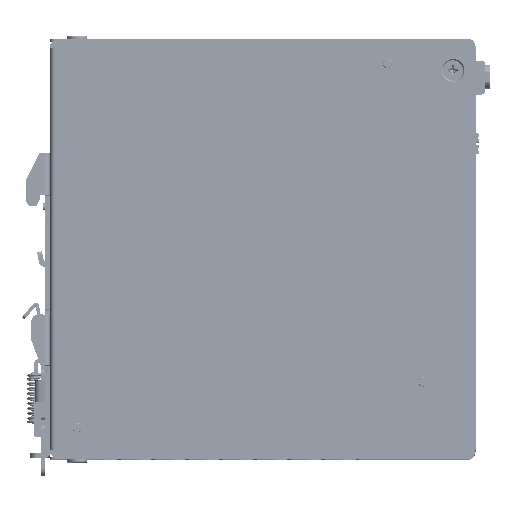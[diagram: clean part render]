
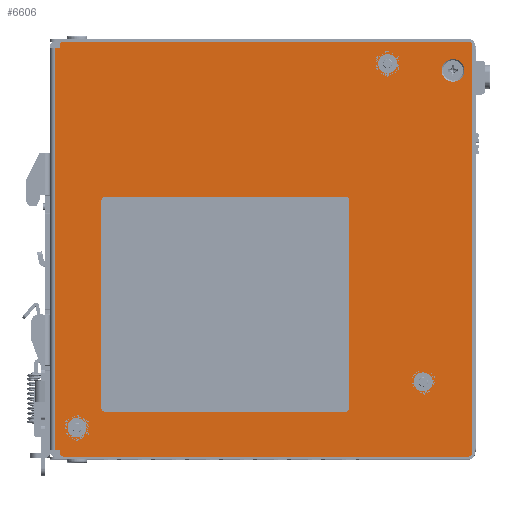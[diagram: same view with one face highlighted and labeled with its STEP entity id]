
A CAD part, top view. The second image highlights one B-rep face of the part: STEP entity #6606.
In plain terms, the highlighted planar face has unit normal (0, 0, 1).
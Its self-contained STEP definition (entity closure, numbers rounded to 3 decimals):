
#1284=DIRECTION('',(0.,-1.,0.));
#1285=VECTOR('',#1284,118.4);
#1286=CARTESIAN_POINT('',(1.5,59.2,0.));
#1287=LINE('',#1286,#1285);
#1306=DIRECTION('',(-1.,0.,0.));
#1307=VECTOR('',#1306,1.5);
#1308=CARTESIAN_POINT('',(3.,59.2,0.));
#1309=LINE('',#1308,#1307);
#1320=CARTESIAN_POINT('',(123.5,-60.1,0.));
#1321=DIRECTION('',(0.,0.,-1.));
#1322=DIRECTION('',(1.,0.,0.));
#1323=AXIS2_PLACEMENT_3D('',#1320,#1321,#1322);
#1328=CARTESIAN_POINT('',(4.,-60.2,0.));
#1329=DIRECTION('',(0.,0.,-1.));
#1330=DIRECTION('',(0.,-1.,0.));
#1331=AXIS2_PLACEMENT_3D('',#1328,#1329,#1330);
#1336=CARTESIAN_POINT('',(2.7,-59.5,0.));
#1337=DIRECTION('',(0.,0.,1.));
#1338=DIRECTION('',(1.,0.,0.));
#1339=AXIS2_PLACEMENT_3D('',#1336,#1337,#1338);
#1344=DIRECTION('',(-1.,0.,0.));
#1345=VECTOR('',#1344,1.2);
#1346=CARTESIAN_POINT('',(2.7,-59.2,0.));
#1347=LINE('',#1346,#1345);
#1351=DIRECTION('',(0.,1.,0.));
#1352=VECTOR('',#1351,1.);
#1353=CARTESIAN_POINT('',(3.,59.2,0.));
#1354=LINE('',#1353,#1352);
#1358=CARTESIAN_POINT('',(4.,60.2,0.));
#1359=DIRECTION('',(0.,0.,-1.));
#1360=DIRECTION('',(-1.,0.,0.));
#1361=AXIS2_PLACEMENT_3D('',#1358,#1359,#1360);
#1366=CARTESIAN_POINT('',(123.5,60.1,0.));
#1367=DIRECTION('',(0.,0.,-1.));
#1368=DIRECTION('',(0.,1.,0.));
#1369=AXIS2_PLACEMENT_3D('',#1366,#1367,#1368);
#1374=CARTESIAN_POINT('',(118.9,52.7,0.));
#1375=DIRECTION('',(0.,0.,1.));
#1376=DIRECTION('',(-1.,0.,0.));
#1377=AXIS2_PLACEMENT_3D('',#1374,#1375,#1376);
#1382=CARTESIAN_POINT('',(118.9,52.7,0.));
#1383=DIRECTION('',(0.,0.,1.));
#1384=DIRECTION('',(1.,0.,0.));
#1385=AXIS2_PLACEMENT_3D('',#1382,#1383,#1384);
#1390=CARTESIAN_POINT('',(8.,-52.7,0.));
#1391=DIRECTION('',(0.,0.,1.));
#1392=DIRECTION('',(1.,0.,0.));
#1393=AXIS2_PLACEMENT_3D('',#1390,#1391,#1392);
#1398=CARTESIAN_POINT('',(8.,-52.7,0.));
#1399=DIRECTION('',(0.,0.,1.));
#1400=DIRECTION('',(-1.,0.,0.));
#1401=AXIS2_PLACEMENT_3D('',#1398,#1399,#1400);
#1406=CARTESIAN_POINT('',(99.6,54.7,0.));
#1407=DIRECTION('',(0.,0.,1.));
#1408=DIRECTION('',(1.,0.,0.));
#1409=AXIS2_PLACEMENT_3D('',#1406,#1407,#1408);
#1414=CARTESIAN_POINT('',(99.6,54.7,0.));
#1415=DIRECTION('',(0.,0.,1.));
#1416=DIRECTION('',(-1.,0.,0.));
#1417=AXIS2_PLACEMENT_3D('',#1414,#1415,#1416);
#1422=CARTESIAN_POINT('',(110.1,-39.2,0.));
#1423=DIRECTION('',(0.,0.,1.));
#1424=DIRECTION('',(1.,0.,0.));
#1425=AXIS2_PLACEMENT_3D('',#1422,#1423,#1424);
#1430=CARTESIAN_POINT('',(110.1,-39.2,0.));
#1431=DIRECTION('',(0.,0.,1.));
#1432=DIRECTION('',(-1.,0.,0.));
#1433=AXIS2_PLACEMENT_3D('',#1430,#1431,#1432);
#1605=DIRECTION('',(0.,1.,0.));
#1606=VECTOR('',#1605,21.7);
#1607=CARTESIAN_POINT('',(124.6,-60.1,0.));
#1608=LINE('',#1607,#1606);
#1619=DIRECTION('',(0.,1.,0.));
#1620=VECTOR('',#1619,98.5);
#1621=CARTESIAN_POINT('',(124.6,-38.4,0.));
#1622=LINE('',#1621,#1620);
#1640=DIRECTION('',(-1.,0.,0.));
#1641=VECTOR('',#1640,119.5);
#1642=CARTESIAN_POINT('',(123.5,61.2,0.));
#1643=LINE('',#1642,#1641);
#1696=DIRECTION('',(0.,-1.,0.));
#1697=VECTOR('',#1696,0.7);
#1698=CARTESIAN_POINT('',(3.,-59.5,0.));
#1699=LINE('',#1698,#1697);
#1717=DIRECTION('',(1.,0.,0.));
#1718=VECTOR('',#1717,119.5);
#1719=CARTESIAN_POINT('',(4.,-61.2,0.));
#1720=LINE('',#1719,#1718);
#1810=DIRECTION('',(0.,1.,0.));
#1811=VECTOR('',#1810,20.);
#1812=CARTESIAN_POINT('',(15.,-29.7,0.));
#1813=LINE('',#1812,#1811);
#1824=DIRECTION('',(1.,0.,0.));
#1825=VECTOR('',#1824,0.2);
#1826=CARTESIAN_POINT('',(15.,-9.7,0.));
#1827=LINE('',#1826,#1825);
#1838=DIRECTION('',(0.,-1.,0.));
#1839=VECTOR('',#1838,20.);
#1840=CARTESIAN_POINT('',(15.2,-9.7,0.));
#1841=LINE('',#1840,#1839);
#1852=DIRECTION('',(-1.,0.,0.));
#1853=VECTOR('',#1852,0.2);
#1854=CARTESIAN_POINT('',(15.2,-29.7,0.));
#1855=LINE('',#1854,#1853);
#1894=DIRECTION('',(0.,1.,0.));
#1895=VECTOR('',#1894,3.5);
#1896=CARTESIAN_POINT('',(15.,-48.2,0.));
#1897=LINE('',#1896,#1895);
#1908=DIRECTION('',(1.,0.,0.));
#1909=VECTOR('',#1908,0.2);
#1910=CARTESIAN_POINT('',(15.,-44.7,0.));
#1911=LINE('',#1910,#1909);
#1922=DIRECTION('',(0.,-1.,0.));
#1923=VECTOR('',#1922,3.3);
#1924=CARTESIAN_POINT('',(15.2,-44.7,0.));
#1925=LINE('',#1924,#1923);
#1936=DIRECTION('',(1.,0.,0.));
#1937=VECTOR('',#1936,3.3);
#1938=CARTESIAN_POINT('',(15.2,-48.,0.));
#1939=LINE('',#1938,#1937);
#1950=DIRECTION('',(0.,-1.,0.));
#1951=VECTOR('',#1950,0.2);
#1952=CARTESIAN_POINT('',(18.5,-48.,0.));
#1953=LINE('',#1952,#1951);
#1964=DIRECTION('',(-1.,0.,0.));
#1965=VECTOR('',#1964,3.5);
#1966=CARTESIAN_POINT('',(18.5,-48.2,0.));
#1967=LINE('',#1966,#1965);
#5215=CARTESIAN_POINT('',(1.5,-59.2,0.));
#5216=VERTEX_POINT('',#5215);
#5217=CARTESIAN_POINT('',(1.5,59.2,0.));
#5218=VERTEX_POINT('',#5217);
#5219=CARTESIAN_POINT('',(3.,59.2,0.));
#5220=VERTEX_POINT('',#5219);
#5223=CARTESIAN_POINT('',(124.6,-60.1,0.));
#5224=CARTESIAN_POINT('',(123.5,-61.2,0.));
#5225=VERTEX_POINT('',#5223);
#5226=VERTEX_POINT('',#5224);
#5227=CARTESIAN_POINT('',(4.,-61.2,0.));
#5228=VERTEX_POINT('',#5227);
#5229=CARTESIAN_POINT('',(3.,-60.2,0.));
#5230=VERTEX_POINT('',#5229);
#5231=CARTESIAN_POINT('',(3.,-59.5,0.));
#5232=VERTEX_POINT('',#5231);
#5233=CARTESIAN_POINT('',(2.7,-59.2,0.));
#5234=VERTEX_POINT('',#5233);
#5235=CARTESIAN_POINT('',(3.,60.2,0.));
#5236=VERTEX_POINT('',#5235);
#5237=CARTESIAN_POINT('',(4.,61.2,0.));
#5238=VERTEX_POINT('',#5237);
#5239=CARTESIAN_POINT('',(123.5,61.2,0.));
#5240=VERTEX_POINT('',#5239);
#5241=CARTESIAN_POINT('',(124.6,60.1,0.));
#5242=VERTEX_POINT('',#5241);
#5243=CARTESIAN_POINT('',(124.6,-38.4,0.));
#5244=VERTEX_POINT('',#5243);
#5245=CARTESIAN_POINT('',(115.55,52.7,0.));
#5246=CARTESIAN_POINT('',(122.25,52.7,0.));
#5247=VERTEX_POINT('',#5245);
#5248=VERTEX_POINT('',#5246);
#5249=CARTESIAN_POINT('',(10.8,-52.7,0.));
#5250=CARTESIAN_POINT('',(5.2,-52.7,0.));
#5251=VERTEX_POINT('',#5249);
#5252=VERTEX_POINT('',#5250);
#5253=CARTESIAN_POINT('',(102.4,54.7,0.));
#5254=CARTESIAN_POINT('',(96.8,54.7,0.));
#5255=VERTEX_POINT('',#5253);
#5256=VERTEX_POINT('',#5254);
#5257=CARTESIAN_POINT('',(15.,-29.7,0.));
#5258=CARTESIAN_POINT('',(15.,-9.7,0.));
#5259=VERTEX_POINT('',#5257);
#5260=VERTEX_POINT('',#5258);
#5261=CARTESIAN_POINT('',(15.2,-29.7,0.));
#5262=VERTEX_POINT('',#5261);
#5263=CARTESIAN_POINT('',(15.2,-9.7,0.));
#5264=VERTEX_POINT('',#5263);
#5265=CARTESIAN_POINT('',(15.,-48.2,0.));
#5266=CARTESIAN_POINT('',(15.,-44.7,0.));
#5267=VERTEX_POINT('',#5265);
#5268=VERTEX_POINT('',#5266);
#5269=CARTESIAN_POINT('',(18.5,-48.2,0.));
#5270=VERTEX_POINT('',#5269);
#5271=CARTESIAN_POINT('',(18.5,-48.,0.));
#5272=VERTEX_POINT('',#5271);
#5273=CARTESIAN_POINT('',(15.2,-48.,0.));
#5274=VERTEX_POINT('',#5273);
#5275=CARTESIAN_POINT('',(15.2,-44.7,0.));
#5276=VERTEX_POINT('',#5275);
#5277=CARTESIAN_POINT('',(112.9,-39.2,0.));
#5278=CARTESIAN_POINT('',(107.3,-39.2,0.));
#5279=VERTEX_POINT('',#5277);
#5280=VERTEX_POINT('',#5278);
#6525=CARTESIAN_POINT('',(0.,0.,0.));
#6526=DIRECTION('',(0.,0.,1.));
#6527=DIRECTION('',(1.,0.,0.));
#6528=AXIS2_PLACEMENT_3D('',#6525,#6526,#6527);
#6529=PLANE('',#6528);
#6531=ORIENTED_EDGE('',*,*,#6530,.T.);
#6533=ORIENTED_EDGE('',*,*,#6532,.F.);
#6535=ORIENTED_EDGE('',*,*,#6534,.T.);
#6537=ORIENTED_EDGE('',*,*,#6536,.F.);
#6539=ORIENTED_EDGE('',*,*,#6538,.T.);
#6541=ORIENTED_EDGE('',*,*,#6540,.T.);
#6542=ORIENTED_EDGE('',*,*,#6492,.F.);
#6543=ORIENTED_EDGE('',*,*,#6515,.F.);
#6545=ORIENTED_EDGE('',*,*,#6544,.T.);
#6547=ORIENTED_EDGE('',*,*,#6546,.T.);
#6549=ORIENTED_EDGE('',*,*,#6548,.F.);
#6551=ORIENTED_EDGE('',*,*,#6550,.T.);
#6553=ORIENTED_EDGE('',*,*,#6552,.F.);
#6555=ORIENTED_EDGE('',*,*,#6554,.F.);
#6556=EDGE_LOOP('',(#6531,#6533,#6535,#6537,#6539,#6541,#6542,#6543,#6545,#6547,
#6549,#6551,#6553,#6555));
#6557=FACE_OUTER_BOUND('',#6556,.F.);
#6559=ORIENTED_EDGE('',*,*,#6558,.T.);
#6561=ORIENTED_EDGE('',*,*,#6560,.T.);
#6562=EDGE_LOOP('',(#6559,#6561));
#6563=FACE_BOUND('',#6562,.F.);
#6565=ORIENTED_EDGE('',*,*,#6564,.T.);
#6567=ORIENTED_EDGE('',*,*,#6566,.T.);
#6568=EDGE_LOOP('',(#6565,#6567));
#6569=FACE_BOUND('',#6568,.F.);
#6571=ORIENTED_EDGE('',*,*,#6570,.T.);
#6573=ORIENTED_EDGE('',*,*,#6572,.T.);
#6574=EDGE_LOOP('',(#6571,#6573));
#6575=FACE_BOUND('',#6574,.F.);
#6577=ORIENTED_EDGE('',*,*,#6576,.F.);
#6579=ORIENTED_EDGE('',*,*,#6578,.F.);
#6581=ORIENTED_EDGE('',*,*,#6580,.F.);
#6583=ORIENTED_EDGE('',*,*,#6582,.F.);
#6584=EDGE_LOOP('',(#6577,#6579,#6581,#6583));
#6585=FACE_BOUND('',#6584,.F.);
#6587=ORIENTED_EDGE('',*,*,#6586,.F.);
#6589=ORIENTED_EDGE('',*,*,#6588,.F.);
#6591=ORIENTED_EDGE('',*,*,#6590,.F.);
#6593=ORIENTED_EDGE('',*,*,#6592,.F.);
#6595=ORIENTED_EDGE('',*,*,#6594,.F.);
#6597=ORIENTED_EDGE('',*,*,#6596,.F.);
#6598=EDGE_LOOP('',(#6587,#6589,#6591,#6593,#6595,#6597));
#6599=FACE_BOUND('',#6598,.F.);
#6601=ORIENTED_EDGE('',*,*,#6600,.T.);
#6603=ORIENTED_EDGE('',*,*,#6602,.T.);
#6604=EDGE_LOOP('',(#6601,#6603));
#6605=FACE_BOUND('',#6604,.F.);
#6606=ADVANCED_FACE('',(#6557,#6563,#6569,#6575,#6585,#6599,#6605),#6529,.T.);
#1324=CIRCLE('',#1323,1.1);
#1332=CIRCLE('',#1331,1.);
#1340=CIRCLE('',#1339,0.3);
#1362=CIRCLE('',#1361,1.);
#1370=CIRCLE('',#1369,1.1);
#1378=CIRCLE('',#1377,3.35);
#1386=CIRCLE('',#1385,3.35);
#1394=CIRCLE('',#1393,2.8);
#1402=CIRCLE('',#1401,2.8);
#1410=CIRCLE('',#1409,2.8);
#1418=CIRCLE('',#1417,2.8);
#1426=CIRCLE('',#1425,2.8);
#1434=CIRCLE('',#1433,2.8);
#6492=EDGE_CURVE('',#5218,#5216,#1287,.T.);
#6515=EDGE_CURVE('',#5220,#5218,#1309,.T.);
#6530=EDGE_CURVE('',#5225,#5226,#1324,.T.);
#6532=EDGE_CURVE('',#5228,#5226,#1720,.T.);
#6534=EDGE_CURVE('',#5228,#5230,#1332,.T.);
#6536=EDGE_CURVE('',#5232,#5230,#1699,.T.);
#6538=EDGE_CURVE('',#5232,#5234,#1340,.T.);
#6540=EDGE_CURVE('',#5234,#5216,#1347,.T.);
#6544=EDGE_CURVE('',#5220,#5236,#1354,.T.);
#6546=EDGE_CURVE('',#5236,#5238,#1362,.T.);
#6548=EDGE_CURVE('',#5240,#5238,#1643,.T.);
#6550=EDGE_CURVE('',#5240,#5242,#1370,.T.);
#6552=EDGE_CURVE('',#5244,#5242,#1622,.T.);
#6554=EDGE_CURVE('',#5225,#5244,#1608,.T.);
#6558=EDGE_CURVE('',#5247,#5248,#1378,.T.);
#6560=EDGE_CURVE('',#5248,#5247,#1386,.T.);
#6564=EDGE_CURVE('',#5251,#5252,#1394,.T.);
#6566=EDGE_CURVE('',#5252,#5251,#1402,.T.);
#6570=EDGE_CURVE('',#5255,#5256,#1410,.T.);
#6572=EDGE_CURVE('',#5256,#5255,#1418,.T.);
#6576=EDGE_CURVE('',#5259,#5260,#1813,.T.);
#6578=EDGE_CURVE('',#5262,#5259,#1855,.T.);
#6580=EDGE_CURVE('',#5264,#5262,#1841,.T.);
#6582=EDGE_CURVE('',#5260,#5264,#1827,.T.);
#6586=EDGE_CURVE('',#5267,#5268,#1897,.T.);
#6588=EDGE_CURVE('',#5270,#5267,#1967,.T.);
#6590=EDGE_CURVE('',#5272,#5270,#1953,.T.);
#6592=EDGE_CURVE('',#5274,#5272,#1939,.T.);
#6594=EDGE_CURVE('',#5276,#5274,#1925,.T.);
#6596=EDGE_CURVE('',#5268,#5276,#1911,.T.);
#6600=EDGE_CURVE('',#5279,#5280,#1426,.T.);
#6602=EDGE_CURVE('',#5280,#5279,#1434,.T.);
